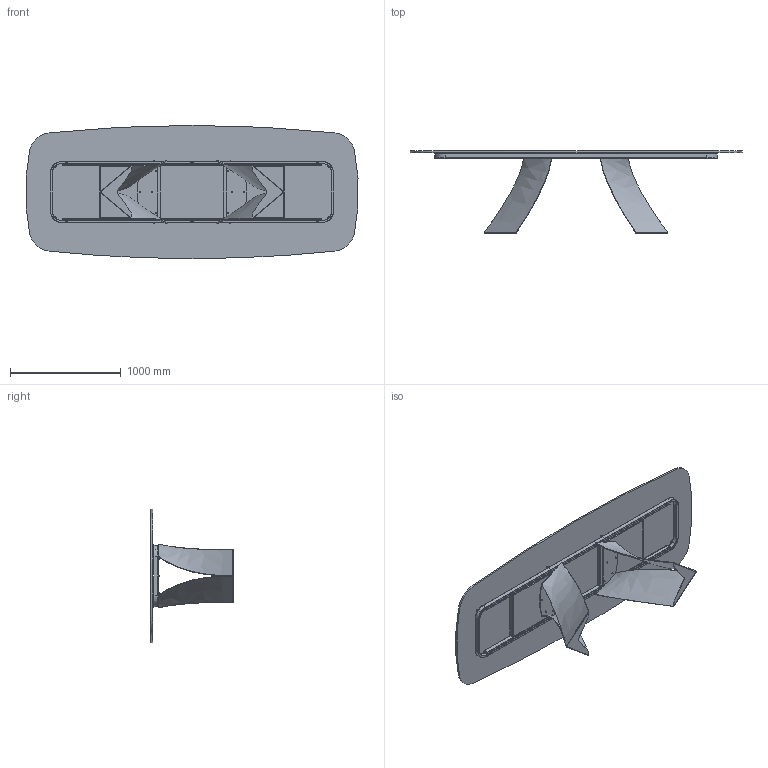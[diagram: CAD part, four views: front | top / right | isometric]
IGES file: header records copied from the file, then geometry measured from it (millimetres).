
Start section: SolidWorks IGES file using analytic representation for surfaces
Global section: file name: Y:\eforma\TECNICO\SOLIDWORKS\E-FORMA\1-TAVOLI\TWIST\02 parts\TW44G.IGS; native system: SolidWorks 2022; preprocessor: SolidWorks 2022; author: eforma.tech; date: 240807.143546; units: millimetre
Bounding box: 2991.72 x 740.37 x 1200 mm (x, y, z)
Volume: 63931559.8 mm3; surface area: 12904502.7 mm2
Topology: 67 solids, 67 shells, 1271 faces, 2953 edges, 1808 vertices
Faces by surface type: revolution 687, plane 518, bspline 66
